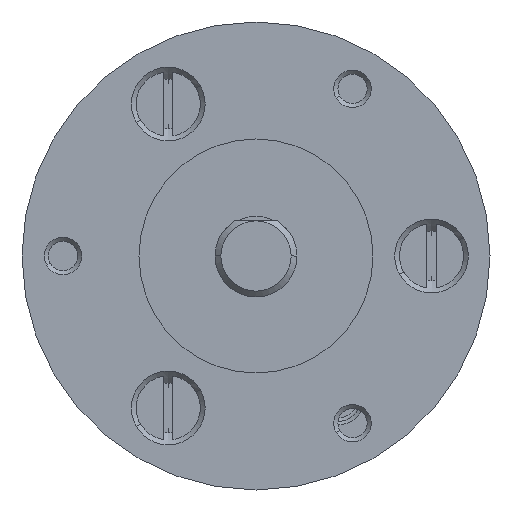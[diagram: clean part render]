
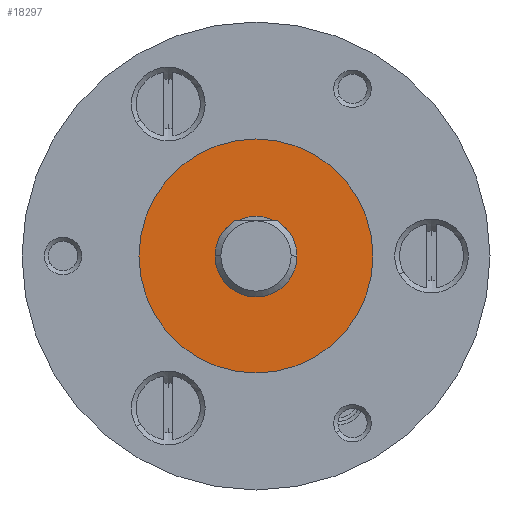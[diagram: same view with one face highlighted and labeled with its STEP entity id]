
A CAD part, left-side view. The second image highlights one B-rep face of the part: STEP entity #18297.
In plain terms, the highlighted planar face has unit normal (-1, 0, 0).
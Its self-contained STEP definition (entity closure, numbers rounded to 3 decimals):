
#5348 = CARTESIAN_POINT ( 'NONE',  ( -55.711, 2.17, 1.7 ) ) ;
#5365 = CARTESIAN_POINT ( 'NONE',  ( -55.711, -3.545, 5. ) ) ;
#5366 = DIRECTION ( 'NONE',  ( 0., -0.866, 0.5 ) ) ;
#5367 = DIRECTION ( 'NONE',  ( -1., 0., 0. ) ) ;
#5368 = CARTESIAN_POINT ( 'NONE',  ( -55.711, 5.115, 0. ) ) ;
#5369 = AXIS2_PLACEMENT_3D ( 'NONE', #5368, #5367, #5366 ) ;
#5370 = CIRCLE ( 'NONE', #5369, 10. ) ;
#5371 = CARTESIAN_POINT ( 'NONE',  ( -55.711, 13.775, -5. ) ) ;
#5386 = CARTESIAN_POINT ( 'NONE',  ( -55.711, 8.059, -1.7 ) ) ;
#5489 = DIRECTION ( 'NONE',  ( 0., -0.866, 0.5 ) ) ;
#5490 = DIRECTION ( 'NONE',  ( -1., 0., 0. ) ) ;
#5491 = CARTESIAN_POINT ( 'NONE',  ( -55.711, 5.115, 0. ) ) ;
#5492 = AXIS2_PLACEMENT_3D ( 'NONE', #5491, #5490, #5489 ) ;
#5493 = CIRCLE ( 'NONE', #5492, 10. ) ;
#5535 = FACE_OUTER_BOUND ( 'NONE', #17447, .T. ) ;
#5536 = FACE_BOUND ( 'NONE', #18298, .T. ) ;
#5537 = DIRECTION ( 'NONE',  ( 0., -0.866, 0.5 ) ) ;
#5538 = DIRECTION ( 'NONE',  ( -1., 0., 0. ) ) ;
#5539 = CARTESIAN_POINT ( 'NONE',  ( -55.711, 5.115, 0. ) ) ;
#5540 = AXIS2_PLACEMENT_3D ( 'NONE', #5539, #5538, #5537 ) ;
#5546 = CIRCLE ( 'NONE', #5540, 3.4 ) ;
#5564 = DIRECTION ( 'NONE',  ( 0., -0.866, 0.5 ) ) ;
#5565 = DIRECTION ( 'NONE',  ( -1., 0., 0. ) ) ;
#5566 = AXIS2_PLACEMENT_3D ( 'NONE', #5572, #5565, #5564 ) ;
#5567 = CIRCLE ( 'NONE', #5566, 3.4 ) ;
#5568 = DIRECTION ( 'NONE',  ( 0., 0.866, -0.5 ) ) ;
#5569 = DIRECTION ( 'NONE',  ( 1., 0., 0. ) ) ;
#5570 = CARTESIAN_POINT ( 'NONE',  ( -55.711, 10.115, 8.66 ) ) ;
#5571 = AXIS2_PLACEMENT_3D ( 'NONE', #5570, #5569, #5568 ) ;
#5572 = CARTESIAN_POINT ( 'NONE',  ( -55.711, 5.115, 0. ) ) ;
#5573 = PLANE ( 'NONE',  #5571 ) ;
#17447 = EDGE_LOOP ( 'NONE', ( #18277, #18278 ) ) ;
#18225 = VERTEX_POINT ( 'NONE', #5348 ) ;
#18238 = VERTEX_POINT ( 'NONE', #5371 ) ;
#18240 = EDGE_CURVE ( 'NONE', #18241, #18238, #5370, .T. ) ;
#18241 = VERTEX_POINT ( 'NONE', #5365 ) ;
#18252 = VERTEX_POINT ( 'NONE', #5386 ) ;
#18277 = ORIENTED_EDGE ( 'NONE', *, *, #18240, .T. ) ;
#18278 = ORIENTED_EDGE ( 'NONE', *, *, #18279, .T. ) ;
#18279 = EDGE_CURVE ( 'NONE', #18238, #18241, #5493, .T. ) ;
#18296 = EDGE_CURVE ( 'NONE', #18225, #18252, #5546, .T. ) ;
#18297 = ADVANCED_FACE ( 'NONE', ( #5536, #5535 ), #5573, .F. ) ;
#18298 = EDGE_LOOP ( 'NONE', ( #18299, #18300 ) ) ;
#18299 = ORIENTED_EDGE ( 'NONE', *, *, #18296, .F. ) ;
#18300 = ORIENTED_EDGE ( 'NONE', *, *, #18302, .F. ) ;
#18302 = EDGE_CURVE ( 'NONE', #18252, #18225, #5567, .T. ) ;
